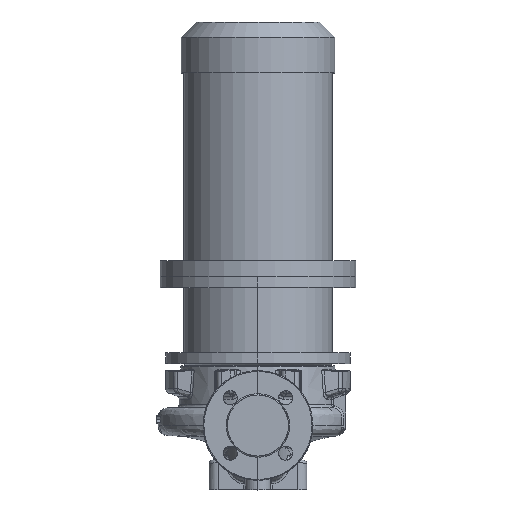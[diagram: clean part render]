
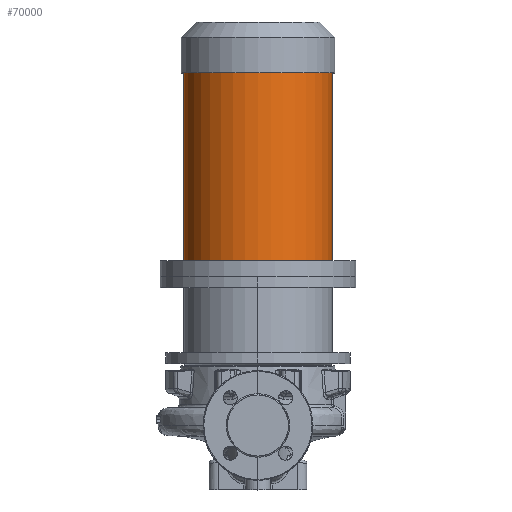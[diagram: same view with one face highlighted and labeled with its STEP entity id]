
A CAD part, top view. The second image highlights one B-rep face of the part: STEP entity #70000.
In plain terms, the highlighted cylindrical face has radius 95 mm (diameter 190 mm), a partial arc.
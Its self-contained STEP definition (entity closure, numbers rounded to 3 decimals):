
#4503 = LINE ( 'NONE', #22124, #67920 ) ;
#6745 = FACE_OUTER_BOUND ( 'NONE', #65301, .T. ) ;
#9916 = DIRECTION ( 'NONE',  ( 0., -1., 0. ) ) ;
#16076 = CARTESIAN_POINT ( 'NONE',  ( 95., 190.3, 0. ) ) ;
#17247 = CIRCLE ( 'NONE', #29551, 95. ) ;
#17307 = VECTOR ( 'NONE', #9916, 1000. ) ;
#18394 = CARTESIAN_POINT ( 'NONE',  ( 0., 190.3, 0. ) ) ;
#18431 = DIRECTION ( 'NONE',  ( 0., -1., 0. ) ) ;
#18785 = EDGE_CURVE ( 'NONE', #63059, #56900, #66024, .T. ) ;
#22124 = CARTESIAN_POINT ( 'NONE',  ( -95., 190.3, 0. ) ) ;
#24068 = ORIENTED_EDGE ( 'NONE', *, *, #61160, .F. ) ;
#29551 = AXIS2_PLACEMENT_3D ( 'NONE', #65216, #18431, #65717 ) ;
#32063 = ORIENTED_EDGE ( 'NONE', *, *, #64128, .T. ) ;
#32709 = VERTEX_POINT ( 'NONE', #50606 ) ;
#42352 = CIRCLE ( 'NONE', #66476, 95. ) ;
#42547 = CYLINDRICAL_SURFACE ( 'NONE', #73283, 95. ) ;
#43578 = EDGE_CURVE ( 'NONE', #57148, #32709, #4503, .T. ) ;
#43907 = ORIENTED_EDGE ( 'NONE', *, *, #18785, .F. ) ;
#49322 = DIRECTION ( 'NONE',  ( 0., -1., 0. ) ) ;
#50413 = CARTESIAN_POINT ( 'NONE',  ( 95., 210.3, 0. ) ) ;
#50606 = CARTESIAN_POINT ( 'NONE',  ( -95., 210.3, 0. ) ) ;
#56900 = VERTEX_POINT ( 'NONE', #50413 ) ;
#57148 = VERTEX_POINT ( 'NONE', #75836 ) ;
#59275 = DIRECTION ( 'NONE',  ( 0., -1., 0. ) ) ;
#61149 = CARTESIAN_POINT ( 'NONE',  ( 0., 210.3, 0. ) ) ;
#61160 = EDGE_CURVE ( 'NONE', #56900, #32709, #42352, .T. ) ;
#63059 = VERTEX_POINT ( 'NONE', #69294 ) ;
#63326 = DIRECTION ( 'NONE',  ( 0., -1., 0. ) ) ;
#64128 = EDGE_CURVE ( 'NONE', #63059, #57148, #17247, .T. ) ;
#65216 = CARTESIAN_POINT ( 'NONE',  ( 0., 450.3, 0. ) ) ;
#65301 = EDGE_LOOP ( 'NONE', ( #43907, #32063, #65349, #24068 ) ) ;
#65349 = ORIENTED_EDGE ( 'NONE', *, *, #43578, .T. ) ;
#65415 = DIRECTION ( 'NONE',  ( -1., 0., 0. ) ) ;
#65717 = DIRECTION ( 'NONE',  ( -1., 0., 0. ) ) ;
#66024 = LINE ( 'NONE', #16076, #17307 ) ;
#66476 = AXIS2_PLACEMENT_3D ( 'NONE', #61149, #49322, #73040 ) ;
#67920 = VECTOR ( 'NONE', #63326, 1000. ) ;
#69294 = CARTESIAN_POINT ( 'NONE',  ( 95., 450.3, 0. ) ) ;
#70000 = ADVANCED_FACE ( 'NONE', ( #6745 ), #42547, .T. ) ;
#73040 = DIRECTION ( 'NONE',  ( -1., 0., 0. ) ) ;
#73283 = AXIS2_PLACEMENT_3D ( 'NONE', #18394, #59275, #65415 ) ;
#75836 = CARTESIAN_POINT ( 'NONE',  ( -95., 450.3, 0. ) ) ;
